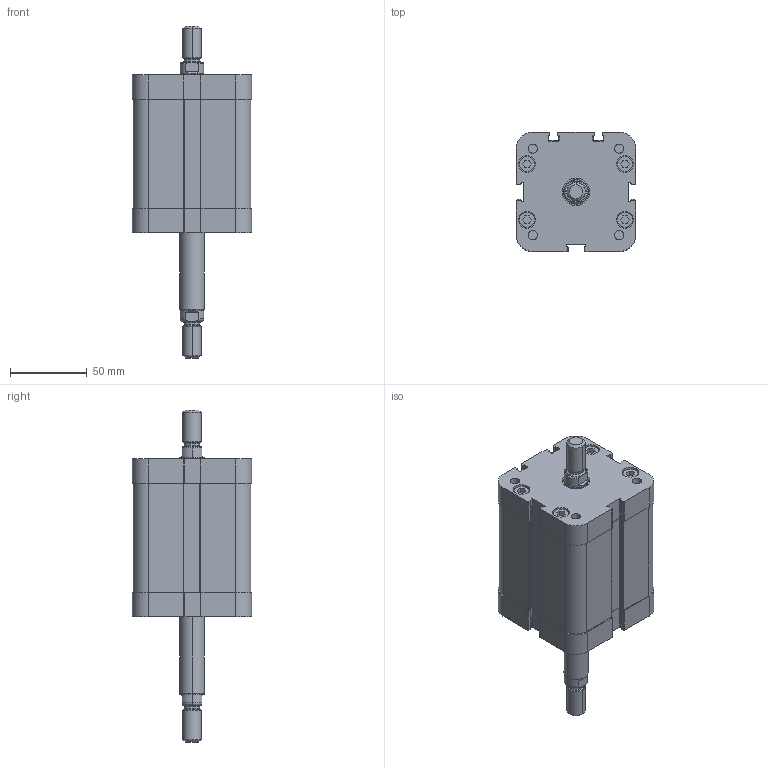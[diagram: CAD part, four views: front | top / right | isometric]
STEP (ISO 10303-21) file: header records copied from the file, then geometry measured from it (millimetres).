
FILE_DESCRIPTION((''),'2;1');
FILE_NAME('P31M40630050.stp','2010-02-28T16:52:45',('B. Petkovic 2010'),('AZ PNEUMATICA S.r.l.'),'Mechanical Desktop 2006','Mechanical Desktop 2006','Via Marco Biagi 6, I-20020 Misinto(MI) Italy, azpneu@tin.it');
FILE_SCHEMA(('CONFIG_CONTROL_DESIGN'));
Length unit declared in the file: millimetre
Products named in the file (2): P31M40630050; COMPACT CILINDRI
Assembly tree (1 placements, depth 2):
  P31M40630050
    COMPACT CILINDRI
Bounding box: 78 x 78 x 217 mm (x, y, z)
Volume: 594126.3 mm3; surface area: 59507.1 mm2
Topology: 1 solids, 1 shells, 438 faces, 1128 edges, 734 vertices
Faces by surface type: plane 250, cylinder 162, cone 12, bspline 8, torus 6
Entity records: 13952 total; most frequent: CARTESIAN_POINT 2822, DIRECTION 2393, ORIENTED_EDGE 2256, EDGE_CURVE 1128, AXIS2_PLACEMENT_3D 839, VERTEX_POINT 734, VECTOR 715, LINE 715
